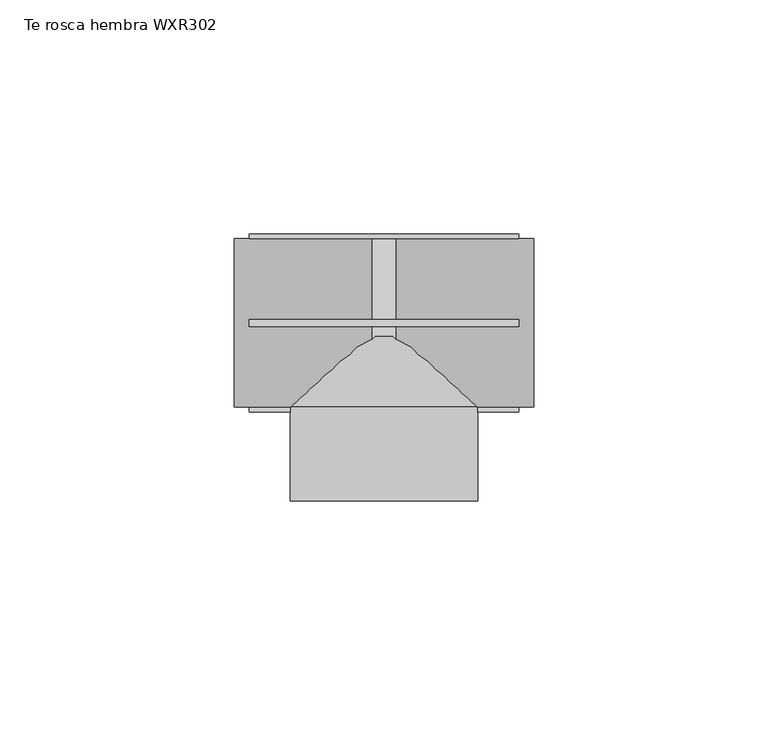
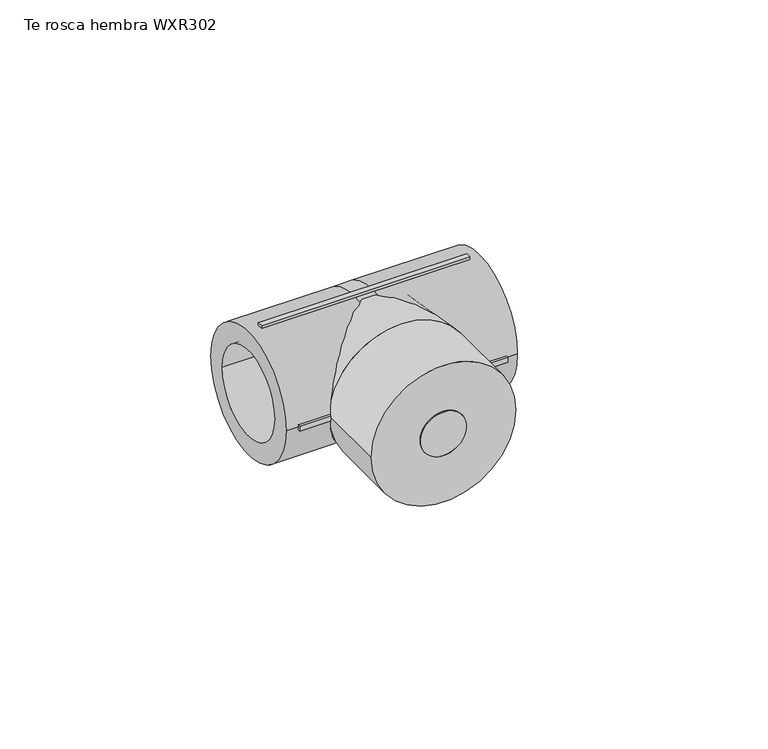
"""IFC4 building model written with IfcOpenShell, lengths in millimetres: pipe fitting geometry, EGB_VASEN_ PPR_Te rosca hembra WXR302 : Te rosca hembra WXR302."""

from ifc_helpers import new_model, si_unit, point, frame, origin, origin_2d, place, context, project, spatial, polyline, circle_curve, trimmed, segment, composite_curve, outline, extrude, source, transform, mapped, element, save
from ifc_brep_helpers import plane_surface, cylinder_surface, revolved_surface, advanced_brep


def te_rosca_hembra_wxr302_b9d40e47(model_context):
    return source(origin(), model_context, "Body", "SolidModel", [
        extrude(outline(composite_curve([segment(trimmed(circle_curve(origin_2d(), 6.35), [point((-6.35, 0.0))], [point((6.35, 0.0))], False, "CARTESIAN"), True, "CONTINUOUS"), segment(trimmed(circle_curve(origin_2d(), 6.35), [point((6.35, 0.0))], [point((-6.35, 0.0))], False, "CARTESIAN"), True, "CONTINUOUS")], self_intersect=False)), frame((0.0, -38.0, 0.0), z_axis=(0.0, 1.0, 0.0), x_axis=(0.0, 0.0, 1.0)), (0.0, 0.0, 1.0), 20.0),
        advanced_brep(
        [(2.56, -12.5, 0.0), (2.56, 12.5, 0.0), (-2.56, 12.5, 0.0), (-2.56, -12.5, 0.0), (-2.56, 18.0, 0.0), (2.56, 18.0, 0.0), (2.56, -18.0, 0.0), (-2.56, -18.0, 0.0), (32.0, -18.0, 0.0), (32.0, 18.0, 0.0), (32.0, -12.5, 0.0), (32.0, 12.5, 0.0), (-32.0, -18.0, 0.0), (-32.0, 18.0, 0.0), (-32.0, -12.5, 0.0), (-32.0, 12.5, 0.0)],
        [
            (0, 1, circle_curve(frame((2.56, 0.0, 0.0), z_axis=(1.0, 0.0, 0.0), x_axis=(0.0, 1.0, 0.0)), 12.5)),
            (1, 0, circle_curve(frame((2.56, 0.0, 0.0), z_axis=(1.0, 0.0, 0.0), x_axis=(0.0, 1.0, 0.0)), 12.5)),
            (2, 3, circle_curve(frame((-2.56, 0.0, 0.0), z_axis=(-1.0, 0.0, 0.0), x_axis=(0.0, 1.0, 0.0)), 12.5)),
            (3, 2, circle_curve(frame((-2.56, 0.0, 0.0), z_axis=(-1.0, 0.0, 0.0), x_axis=(0.0, 1.0, 0.0)), 12.5)),
            (4, 5),
            (5, 6, circle_curve(frame((2.56, 0.0, 0.0), z_axis=(-1.0, 0.0, 0.0), x_axis=(0.0, 0.0, -1.0)), 18.0)),
            (6, 7),
            (7, 4, circle_curve(frame((-2.56, 0.0, 0.0), z_axis=(1.0, 0.0, 0.0), x_axis=(0.0, 0.0, -1.0)), 18.0)),
            (4, 7, circle_curve(frame((-2.56, 0.0, 0.0), z_axis=(1.0, 0.0, 0.0), x_axis=(0.0, 0.0, 1.0)), 18.0)),
            (6, 5, circle_curve(frame((2.56, 0.0, 0.0), z_axis=(-1.0, 0.0, 0.0), x_axis=(0.0, 0.0, 1.0)), 18.0)),
            (8, 9, circle_curve(frame((32.0, 0.0, 0.0), z_axis=(1.0, 0.0, 0.0), x_axis=(0.0, 1.0, 0.0)), 18.0)),
            (9, 8, circle_curve(frame((32.0, 0.0, 0.0), z_axis=(1.0, 0.0, 0.0), x_axis=(0.0, 1.0, 0.0)), 18.0)),
            (10, 11, circle_curve(frame((32.0, 0.0, 0.0), z_axis=(-1.0, 0.0, 0.0), x_axis=(0.0, 1.0, 0.0)), 12.5)),
            (11, 10, circle_curve(frame((32.0, 0.0, 0.0), z_axis=(-1.0, 0.0, 0.0), x_axis=(0.0, 1.0, 0.0)), 12.5)),
            (9, 5),
            (6, 8),
            (11, 1),
            (0, 10),
            (12, 13, circle_curve(frame((-32.0, 0.0, 0.0), z_axis=(-1.0, 0.0, 0.0), x_axis=(0.0, 1.0, 0.0)), 18.0)),
            (13, 12, circle_curve(frame((-32.0, 0.0, 0.0), z_axis=(-1.0, 0.0, 0.0), x_axis=(0.0, 1.0, 0.0)), 18.0)),
            (14, 15, circle_curve(frame((-32.0, 0.0, 0.0), z_axis=(1.0, 0.0, 0.0), x_axis=(0.0, 1.0, 0.0)), 12.5)),
            (15, 14, circle_curve(frame((-32.0, 0.0, 0.0), z_axis=(1.0, 0.0, 0.0), x_axis=(0.0, 1.0, 0.0)), 12.5)),
            (12, 7),
            (4, 13),
            (14, 3),
            (2, 15),
        ],
        [
            plane_surface(frame((2.56, 0.0, 0.0), z_axis=(1.0, 0.0, 0.0), x_axis=(0.0, 0.0, -1.0))),
            plane_surface(frame((-2.56, 0.0, 0.0), z_axis=(-1.0, 0.0, 0.0), x_axis=(0.0, 0.0, -1.0))),
            cylinder_surface(frame((-2.56, 0.0, 0.0), z_axis=(1.0, 0.0, 0.0), x_axis=(0.0, 0.0, -1.0)), 18.0),
            cylinder_surface(frame((-2.56, 0.0, 0.0), z_axis=(1.0, 0.0, 0.0), x_axis=(0.0, 0.0, 1.0)), 18.0),
            plane_surface(frame((32.0, 0.0, 0.0), z_axis=(1.0, 0.0, 0.0), x_axis=(0.0, 0.0, 1.0))),
            cylinder_surface(frame((2.56, 0.0, 0.0), z_axis=(-1.0, 0.0, 0.0), x_axis=(0.0, 1.0, 0.0)), 18.0),
            revolved_surface(polyline([(32.0, 12.5, 0.0), (2.56, 12.5, 0.0)]), (2.56, 0.0, 0.0), (1.0, 0.0, 0.0)),
            plane_surface(frame((-32.0, 0.0, 0.0), z_axis=(-1.0, 0.0, 0.0), x_axis=(0.0, 0.0, 1.0))),
            cylinder_surface(frame((-32.0, 0.0, 0.0), z_axis=(-1.0, 0.0, 0.0), x_axis=(0.0, 1.0, 0.0)), 18.0),
            revolved_surface(polyline([(-2.5599999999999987, 12.5, 0.0), (-32.0, 12.5, 0.0)]), (-32.0, 0.0, 0.0), (1.0, 0.0, 0.0)),
        ],
        [
            (0, [[1, 2]]),
            (1, [[3, 4]]),
            (2, [[5, 6, 7, 8]]),
            (3, [[-5, 9, -7, 10]]),
            (4, [[11, 12], [13, 14]]),
            (5, [[-12, 15, -10, 16]]),
            (5, [[-11, -16, -6, -15]]),
            (6, [[-14, 17, -1, 18]]),
            (6, [[-13, -18, -2, -17]]),
            (7, [[19, 20], [21, 22]]),
            (8, [[-19, 23, -9, 24]]),
            (8, [[-20, -24, -8, -23]]),
            (9, [[-21, 25, -3, 26]]),
            (9, [[-22, -26, -4, -25]]),
        ],
    ),
        extrude(outline(composite_curve([segment(trimmed(circle_curve(origin_2d(), 20.0), [point((0.0, 20.0))], [point((0.0, -20.0))], False, "CARTESIAN"), True, "CONTINUOUS"), segment(trimmed(circle_curve(origin_2d(), 20.0), [point((0.0, -20.0))], [point((0.0, 20.0))], False, "CARTESIAN"), True, "CONTINUOUS")], self_intersect=False), holes=[composite_curve([segment(trimmed(circle_curve(origin_2d(), 6.35), [point((0.0, 6.35))], [point((0.0, -6.35))], True, "CARTESIAN"), True, "CONTINUOUS"), segment(trimmed(circle_curve(origin_2d(), 6.35), [point((0.0, -6.35))], [point((0.0, 6.35))], True, "CARTESIAN"), True, "CONTINUOUS")], self_intersect=False)]), frame((0.0, -38.0, 0.0), z_axis=(0.0, 1.0, 0.0), x_axis=(0.0, 0.0, 1.0)), (0.0, 0.0, 1.0), 20.0),
        advanced_brep(
        [(18.0, 0.0, 0.0), (-18.0, 0.0, 0.0), (20.0, -18.0, 0.0), (-20.0, -18.0, 0.0)],
        [
            (0, 1, circle_curve(frame((0.0, 0.0, 0.0), z_axis=(0.0, 1.0, 0.0), x_axis=(1.0, 0.0, 0.0)), 18.0)),
            (1, 0, circle_curve(frame((0.0, 0.0, 0.0), z_axis=(0.0, 1.0, 0.0), x_axis=(-1.0, 0.0, 0.0)), 18.0)),
            (2, 3, circle_curve(frame((0.0, -18.0, 0.0), z_axis=(0.0, -1.0, 0.0), x_axis=(-1.0, 0.0, 0.0)), 20.0)),
            (3, 2, circle_curve(frame((0.0, -18.0, 0.0), z_axis=(0.0, -1.0, 0.0), x_axis=(1.0, 0.0, 0.0)), 20.0)),
            (3, 1),
            (0, 2),
        ],
        [
            plane_surface(frame((0.0, 0.0, 0.0), z_axis=(0.0, 1.0, 0.0), x_axis=(0.0, 0.0, -1.0))),
            plane_surface(frame((0.0, -18.0, 0.0), z_axis=(0.0, -1.0, 0.0), x_axis=(0.0, 0.0, -1.0))),
            revolved_surface(polyline([(18.0, 0.0, 0.0), (20.0, -18.0, 0.0)]), (0.0, 162.0, 0.0), (0.0, -1.0, 0.0)),
            revolved_surface(polyline([(-18.0, 0.0, 0.0), (-20.0, -18.0, 0.0)]), (0.0, 162.0, 0.0), (0.0, -1.0, 0.0)),
        ],
        [
            (0, [[1, 2]]),
            (1, [[3, 4]]),
            (2, [[-4, 5, -1, 6]]),
            (3, [[-3, -6, -2, -5]]),
        ],
    ),
        extrude(outline(polyline([(28.8, 0.75), (28.8, -0.75), (-28.8, -0.75), (-28.8, 0.75), (28.8, 0.75)])), frame((0.0, 0.0, 17.0), z_axis=(0.0, 0.0, 1.0), x_axis=(1.0, 0.0, 0.0)), (0.0, 0.0, 1.0), 2.0),
        extrude(outline(polyline([(28.8, 0.75), (28.8, -0.75), (-28.8, -0.75), (-28.8, 0.75), (28.8, 0.75)])), frame((0.0, 0.0, -19.0), z_axis=(0.0, 0.0, 1.0), x_axis=(1.0, 0.0, 0.0)), (0.0, 0.0, 1.0), 2.0),
        extrude(outline(polyline([(28.8, 19.0), (28.8, 17.0), (-28.8, 17.0), (-28.8, 19.0), (28.8, 19.0)])), frame((0.0, 0.0, -0.75), z_axis=(0.0, 0.0, 1.0), x_axis=(1.0, 0.0, 0.0)), (0.0, 0.0, 1.0), 1.5),
        extrude(outline(polyline([(28.8, -17.0), (28.8, -19.0), (-28.8, -19.0), (-28.8, -17.0), (28.8, -17.0)])), frame((0.0, 0.0, -0.75), z_axis=(0.0, 0.0, 1.0), x_axis=(1.0, 0.0, 0.0)), (0.0, 0.0, 1.0), 1.5),
    ])


if __name__ == "__main__":
    model = new_model("IFC4")
    model_context = context("Model", 3, world=origin())
    ifc_project = project(units=[si_unit("LENGTHUNIT", "METRE", prefix="MILLI")], contexts=[model_context])
    site = spatial("IfcSite", under=ifc_project)
    building = spatial("IfcBuilding", under=site)
    placement = place(None, origin())
    te_rosca_hembra_wxr302_shape = te_rosca_hembra_wxr302_b9d40e47(model_context)
    element("IfcPipeFitting", 1, ObjectType="EGB_VASEN_ PPR_Te rosca hembra WXR302 : Te rosca hembra WXR302", at=placement, inside=building, context=model_context, shape_type="MappedRepresentation", body=[
        mapped(te_rosca_hembra_wxr302_shape, transform((0.0, 0.0, 0.0), x_axis=(1.0, 0.0, 0.0), y_axis=(0.0, 1.0, 0.0), z_axis=(0.0, 0.0, 1.0))),
    ])
    save(model, "model.ifc")
